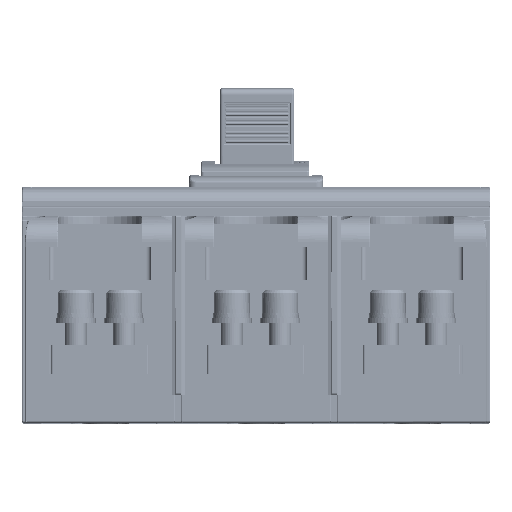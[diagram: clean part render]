
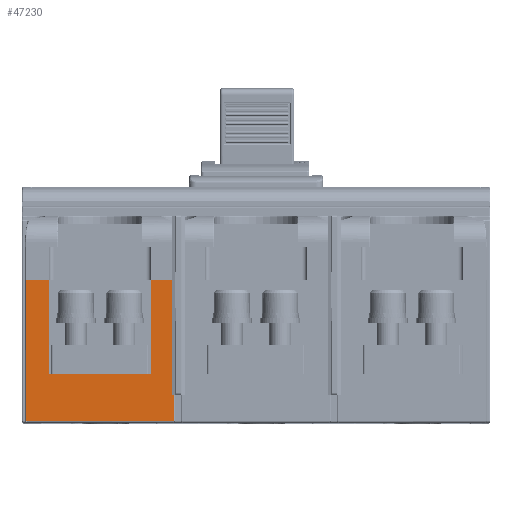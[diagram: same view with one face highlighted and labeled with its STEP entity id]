
A CAD part, top view. The second image highlights one B-rep face of the part: STEP entity #47230.
In plain terms, the highlighted planar face has unit normal (0, 0, 1).
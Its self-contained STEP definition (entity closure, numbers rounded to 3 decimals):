
#1105=DIRECTION('',(-1.,0.,0.));
#1106=VECTOR('',#1105,0.745);
#1107=CARTESIAN_POINT('',(68.095,-51.5,
0.));
#1108=LINE('',#1107,#1106);
#1109=DIRECTION('',(1.,0.,0.));
#1110=VECTOR('',#1109,45.7);
#1111=CARTESIAN_POINT('',(12.15,-42.,0.));
#1112=LINE('',#1111,#1110);
#1113=DIRECTION('',(0.,1.,0.));
#1114=VECTOR('',#1113,42.);
#1115=CARTESIAN_POINT('',(57.85,-42.,0.));
#1116=LINE('',#1115,#1114);
#1117=DIRECTION('',(0.,1.,0.));
#1118=VECTOR('',#1117,51.5);
#1119=CARTESIAN_POINT('',(67.35,-51.5,0.));
#1120=LINE('',#1119,#1118);
#1229=DIRECTION('',(-1.,0.,0.));
#1230=VECTOR('',#1229,9.5);
#1231=CARTESIAN_POINT('',(67.35,0.,0.));
#1232=LINE('',#1231,#1230);
#1522=DIRECTION('',(-1.,0.,0.));
#1523=VECTOR('',#1522,10.201);
#1524=CARTESIAN_POINT('',(12.15,0.,0.));
#1525=LINE('',#1524,#1523);
#5293=DIRECTION('',(0.,-1.,0.));
#5294=VECTOR('',#5293,63.);
#5295=CARTESIAN_POINT('',(1.949,0.,0.));
#5296=LINE('',#5295,#5294);
#5311=DIRECTION('',(1.,0.,0.));
#5312=VECTOR('',#5311,66.146);
#5313=CARTESIAN_POINT('',(1.949,-63.,
0.));
#5314=LINE('',#5313,#5312);
#6418=DIRECTION('',(0.,1.,0.));
#6419=VECTOR('',#6418,11.5);
#6420=CARTESIAN_POINT('',(68.095,-63.,
0.));
#6421=LINE('',#6420,#6419);
#33789=DIRECTION('',(0.,1.,0.));
#33790=VECTOR('',#33789,42.);
#33791=CARTESIAN_POINT('',(12.15,-42.,0.));
#33792=LINE('',#33791,#33790);
#37758=CARTESIAN_POINT('',(12.15,0.,0.));
#37759=VERTEX_POINT('',#37758);
#37760=CARTESIAN_POINT('',(1.949,0.,0.));
#37761=VERTEX_POINT('',#37760);
#39669=CARTESIAN_POINT('',(1.949,-63.,
0.));
#39670=VERTEX_POINT('',#39669);
#39680=CARTESIAN_POINT('',(57.85,-42.,0.));
#39681=CARTESIAN_POINT('',(57.85,0.,0.));
#39682=VERTEX_POINT('',#39680);
#39683=VERTEX_POINT('',#39681);
#39684=CARTESIAN_POINT('',(68.095,-63.,
0.));
#39685=VERTEX_POINT('',#39684);
#39686=CARTESIAN_POINT('',(12.15,-42.,0.));
#39687=VERTEX_POINT('',#39686);
#45526=CARTESIAN_POINT('',(68.095,-51.5,
0.));
#45527=CARTESIAN_POINT('',(67.35,-51.5,0.));
#45528=VERTEX_POINT('',#45526);
#45529=VERTEX_POINT('',#45527);
#45530=CARTESIAN_POINT('',(67.35,0.,0.));
#45531=VERTEX_POINT('',#45530);
#47205=CARTESIAN_POINT('',(0.,0.,0.));
#47206=DIRECTION('',(0.,0.,-1.));
#47207=DIRECTION('',(0.,1.,0.));
#47208=AXIS2_PLACEMENT_3D('',#47205,#47206,#47207);
#47209=PLANE('',#47208);
#47211=ORIENTED_EDGE('',*,*,#47210,.F.);
#47213=ORIENTED_EDGE('',*,*,#47212,.F.);
#47215=ORIENTED_EDGE('',*,*,#47214,.F.);
#47217=ORIENTED_EDGE('',*,*,#47216,.F.);
#47219=ORIENTED_EDGE('',*,*,#47218,.F.);
#47221=ORIENTED_EDGE('',*,*,#47220,.F.);
#47222=ORIENTED_EDGE('',*,*,#47185,.T.);
#47223=ORIENTED_EDGE('',*,*,#46490,.T.);
#47225=ORIENTED_EDGE('',*,*,#47224,.F.);
#47227=ORIENTED_EDGE('',*,*,#47226,.F.);
#47228=EDGE_LOOP('',(#47211,#47213,#47215,#47217,#47219,#47221,#47222,#47223,
#47225,#47227));
#47229=FACE_OUTER_BOUND('',#47228,.F.);
#47230=ADVANCED_FACE('',(#47229),#47209,.F.);
#46490=EDGE_CURVE('',#39682,#39683,#1116,.T.);
#47185=EDGE_CURVE('',#39687,#39682,#1112,.T.);
#47210=EDGE_CURVE('',#45528,#45529,#1108,.T.);
#47212=EDGE_CURVE('',#39685,#45528,#6421,.T.);
#47214=EDGE_CURVE('',#39670,#39685,#5314,.T.);
#47216=EDGE_CURVE('',#37761,#39670,#5296,.T.);
#47218=EDGE_CURVE('',#37759,#37761,#1525,.T.);
#47220=EDGE_CURVE('',#39687,#37759,#33792,.T.);
#47224=EDGE_CURVE('',#45531,#39683,#1232,.T.);
#47226=EDGE_CURVE('',#45529,#45531,#1120,.T.);
